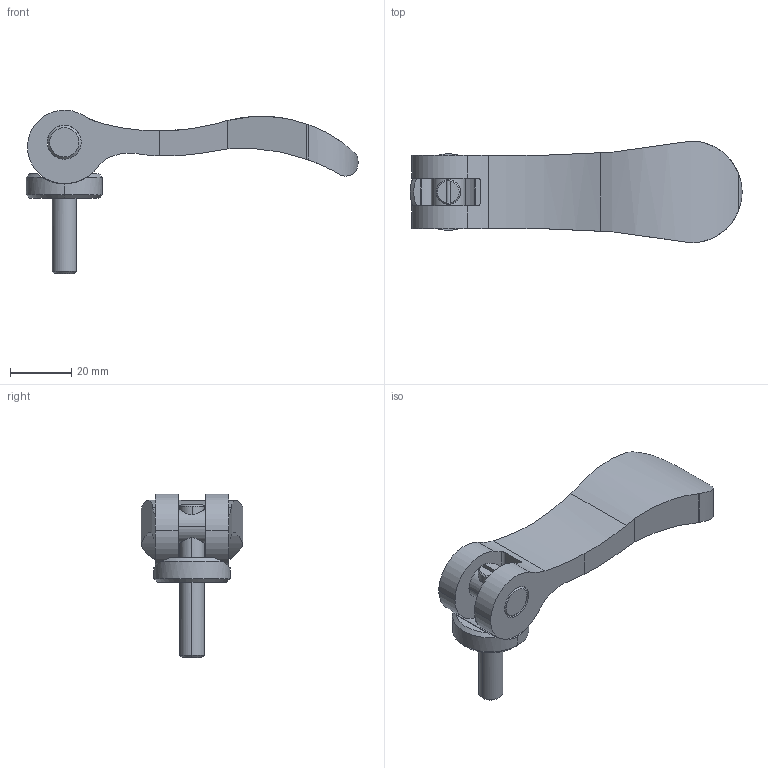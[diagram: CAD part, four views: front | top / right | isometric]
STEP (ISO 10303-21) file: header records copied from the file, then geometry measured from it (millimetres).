
FILE_DESCRIPTION (( 'STEP AP203' ), '1' );
FILE_NAME ('KCLF08X25.step', '2024-11-05T06:35:44', ( '' ), ( '' ), 'SwSTEP 2.0', 'SolidWorks 2023', '' );
FILE_SCHEMA (( 'CONFIG_CONTROL_DESIGN' ));
Length unit declared in the file: millimetre
Products named in the file (4): KCLF08X25_03; KCLF08X25_01; KCLF08X25_02; KCLF08X25
Assembly tree (3 placements, depth 2):
  KCLF08X25
    KCLF08X25_01
    KCLF08X25_02
    KCLF08X25_03
Bounding box: 108.5 x 33.2 x 53.48 mm (x, y, z)
Volume: 34200.2 mm3; surface area: 12944.4 mm2
Topology: 3 solids, 3 shells, 78 faces, 197 edges, 127 vertices
Faces by surface type: cylinder 39, plane 22, cone 17
Entity records: 3200 total; most frequent: CARTESIAN_POINT 957, ORIENTED_EDGE 394, DIRECTION 380, EDGE_CURVE 197, AXIS2_PLACEMENT_3D 154, VERTEX_POINT 127, EDGE_LOOP 86, FACE_OUTER_BOUND 78
